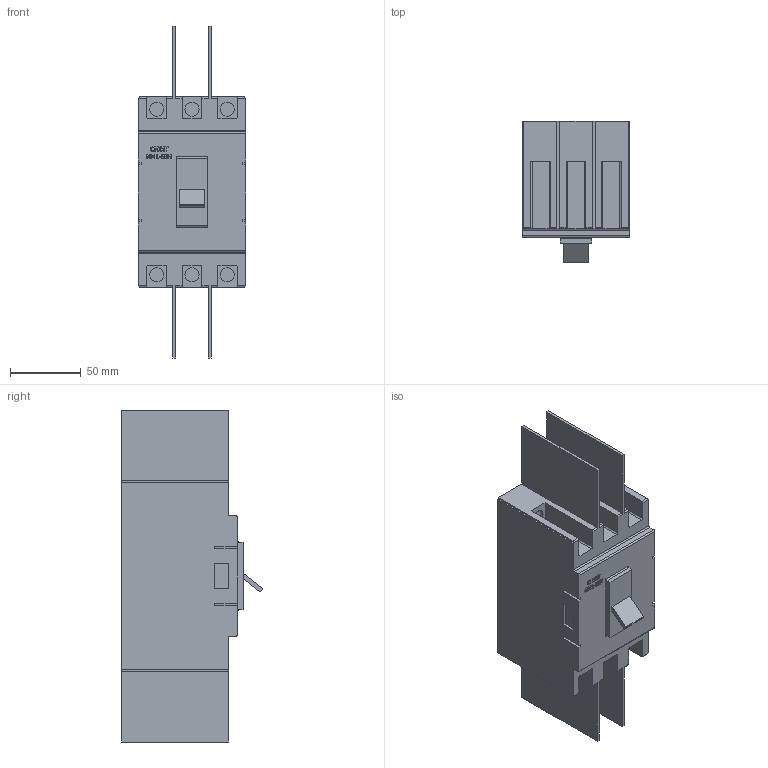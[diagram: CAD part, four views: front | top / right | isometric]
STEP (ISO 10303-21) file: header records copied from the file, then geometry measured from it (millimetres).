
FILE_DESCRIPTION(/* description */ ('','CAx-IF Rec.Pracs.---Representation and Presentation of Product Manufacturing Information (PMI)---3.8---2014-02-18'),/* implementation_level */ '2;1');
FILE_NAME(/* name */ 'C:\Users\ILYA\Desktop\NM1\Авт. выкл. NM1-63H3Р 63A 35кА (CHINT)\Авт. выкл. NM1-63H3Р 63A 35кА (CHINT).stp',/* time_stamp */ '2017-08-17T21:49:36+03:00',/* author */ ('ILYA'),/* organization */ (''),/* preprocessor_version */ 'ST-DEVELOPER v16.1',/* originating_system */ 'Autodesk Inventor 2016',/* authorisation */ '');
FILE_SCHEMA (('AP242_MANAGED_MODEL_BASED_3D_ENGINEERING_MIM_LF { 1 0 10303 442 1 1 4 }'));
Length unit declared in the file: millimetre
Products named in the file (1): Авт. выкл. NM1-63
H3Р 63A 35кА (CHINT)
Bounding box: 76 x 99.8 x 235 mm (x, y, z)
Volume: 789417.8 mm3; surface area: 96370.9 mm2
Topology: 1 solids, 1 shells, 311 faces, 854 edges, 568 vertices
Faces by surface type: plane 218, bspline 55, cylinder 38
Full cylindrical faces by diameter (mm): 10 x6
Entity records: 10294 total; most frequent: CARTESIAN_POINT 2608, ORIENTED_EDGE 1696, DIRECTION 1328, EDGE_CURVE 848, LINE 662, VECTOR 662, VERTEX_POINT 568, EDGE_LOOP 340
